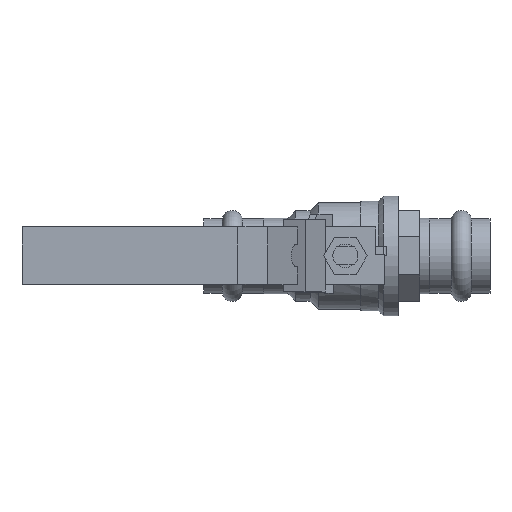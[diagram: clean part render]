
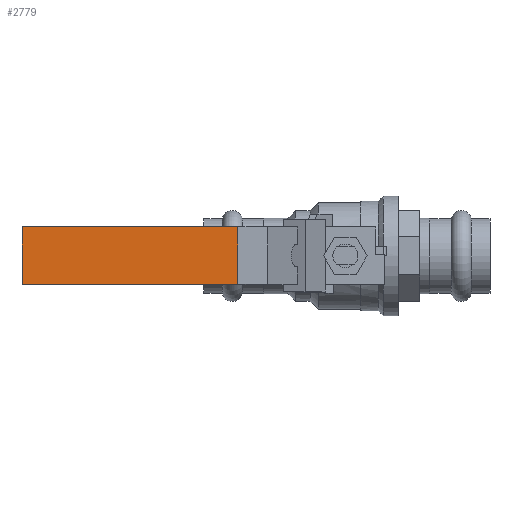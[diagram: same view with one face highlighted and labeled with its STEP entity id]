
A CAD part, top view. The second image highlights one B-rep face of the part: STEP entity #2779.
In plain terms, the highlighted planar face has unit normal (0, 0, 1).
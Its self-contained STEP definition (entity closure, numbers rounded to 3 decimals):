
#2030 = PLANE('',#2031);
#2031 = AXIS2_PLACEMENT_3D('',#2032,#2033,#2034);
#2032 = CARTESIAN_POINT('',(1.33,0.457,2.385
    ));
#2033 = DIRECTION('',(0.,-1.,0.));
#2034 = DIRECTION('',(0.,0.,1.));
#2084 = PLANE('',#2085);
#2085 = AXIS2_PLACEMENT_3D('',#2086,#2087,#2088);
#2086 = CARTESIAN_POINT('',(1.33,-0.328,
    2.385));
#2087 = DIRECTION('',(0.,-1.,0.));
#2088 = DIRECTION('',(0.,0.,1.));
#2432 = PLANE('',#2433);
#2433 = AXIS2_PLACEMENT_3D('',#2434,#2435,#2436);
#2434 = CARTESIAN_POINT('',(0.464,0.457,3.228));
#2435 = DIRECTION('',(1.,0.,0.));
#2436 = DIRECTION('',(0.,0.,1.));
#2452 = VERTEX_POINT('',#2453);
#2453 = CARTESIAN_POINT('',(0.464,0.457,3.336));
#2474 = EDGE_CURVE('',#2452,#2475,#2477,.T.);
#2475 = VERTEX_POINT('',#2476);
#2476 = CARTESIAN_POINT('',(0.464,-0.328,3.336));
#2477 = SURFACE_CURVE('',#2478,(#2482,#2489),.PCURVE_S1.);
#2478 = LINE('',#2479,#2480);
#2479 = CARTESIAN_POINT('',(0.464,0.457,3.336));
#2480 = VECTOR('',#2481,1.);
#2481 = DIRECTION('',(0.,-1.,0.));
#2482 = PCURVE('',#2432,#2483);
#2483 = DEFINITIONAL_REPRESENTATION('',(#2484),#2488);
#2484 = LINE('',#2485,#2486);
#2485 = CARTESIAN_POINT('',(0.108,0.));
#2486 = VECTOR('',#2487,1.);
#2487 = DIRECTION('',(0.,1.));
#2488 = ( GEOMETRIC_REPRESENTATION_CONTEXT(2) 
PARAMETRIC_REPRESENTATION_CONTEXT() REPRESENTATION_CONTEXT('2D SPACE',''
  ) );
#2489 = PCURVE('',#2490,#2495);
#2490 = PLANE('',#2491);
#2491 = AXIS2_PLACEMENT_3D('',#2492,#2493,#2494);
#2492 = CARTESIAN_POINT('',(-1.005,0.457,3.336));
#2493 = DIRECTION('',(0.,0.,1.));
#2494 = DIRECTION('',(-1.,0.,0.));
#2495 = DEFINITIONAL_REPRESENTATION('',(#2496),#2500);
#2496 = LINE('',#2497,#2498);
#2497 = CARTESIAN_POINT('',(-1.468,0.));
#2498 = VECTOR('',#2499,1.);
#2499 = DIRECTION('',(0.,1.));
#2500 = ( GEOMETRIC_REPRESENTATION_CONTEXT(2) 
PARAMETRIC_REPRESENTATION_CONTEXT() REPRESENTATION_CONTEXT('2D SPACE',''
  ) );
#2675 = PLANE('',#2676);
#2676 = AXIS2_PLACEMENT_3D('',#2677,#2678,#2679);
#2677 = CARTESIAN_POINT('',(-2.473,0.457,3.228));
#2678 = DIRECTION('',(-1.,0.,0.));
#2679 = DIRECTION('',(0.,0.,-1.));
#2713 = VERTEX_POINT('',#2714);
#2714 = CARTESIAN_POINT('',(-2.473,-0.328,3.336));
#2735 = EDGE_CURVE('',#2736,#2713,#2738,.T.);
#2736 = VERTEX_POINT('',#2737);
#2737 = CARTESIAN_POINT('',(-2.473,0.457,3.336));
#2738 = SURFACE_CURVE('',#2739,(#2743,#2750),.PCURVE_S1.);
#2739 = LINE('',#2740,#2741);
#2740 = CARTESIAN_POINT('',(-2.473,0.457,3.336));
#2741 = VECTOR('',#2742,1.);
#2742 = DIRECTION('',(0.,-1.,0.));
#2743 = PCURVE('',#2675,#2744);
#2744 = DEFINITIONAL_REPRESENTATION('',(#2745),#2749);
#2745 = LINE('',#2746,#2747);
#2746 = CARTESIAN_POINT('',(-0.108,-0.));
#2747 = VECTOR('',#2748,1.);
#2748 = DIRECTION('',(-0.,1.));
#2749 = ( GEOMETRIC_REPRESENTATION_CONTEXT(2) 
PARAMETRIC_REPRESENTATION_CONTEXT() REPRESENTATION_CONTEXT('2D SPACE',''
  ) );
#2750 = PCURVE('',#2490,#2751);
#2751 = DEFINITIONAL_REPRESENTATION('',(#2752),#2756);
#2752 = LINE('',#2753,#2754);
#2753 = CARTESIAN_POINT('',(1.468,0.));
#2754 = VECTOR('',#2755,1.);
#2755 = DIRECTION('',(0.,1.));
#2756 = ( GEOMETRIC_REPRESENTATION_CONTEXT(2) 
PARAMETRIC_REPRESENTATION_CONTEXT() REPRESENTATION_CONTEXT('2D SPACE',''
  ) );
#2779 = ADVANCED_FACE('',(#2780),#2490,.T.);
#2780 = FACE_BOUND('',#2781,.T.);
#2781 = EDGE_LOOP('',(#2782,#2803,#2804,#2825));
#2782 = ORIENTED_EDGE('',*,*,#2783,.T.);
#2783 = EDGE_CURVE('',#2713,#2475,#2784,.T.);
#2784 = SURFACE_CURVE('',#2785,(#2789,#2796),.PCURVE_S1.);
#2785 = LINE('',#2786,#2787);
#2786 = CARTESIAN_POINT('',(-2.473,-0.328,3.336));
#2787 = VECTOR('',#2788,1.);
#2788 = DIRECTION('',(1.,0.,0.));
#2789 = PCURVE('',#2490,#2790);
#2790 = DEFINITIONAL_REPRESENTATION('',(#2791),#2795);
#2791 = LINE('',#2792,#2793);
#2792 = CARTESIAN_POINT('',(1.468,0.785));
#2793 = VECTOR('',#2794,1.);
#2794 = DIRECTION('',(-1.,0.));
#2795 = ( GEOMETRIC_REPRESENTATION_CONTEXT(2) 
PARAMETRIC_REPRESENTATION_CONTEXT() REPRESENTATION_CONTEXT('2D SPACE',''
  ) );
#2796 = PCURVE('',#2084,#2797);
#2797 = DEFINITIONAL_REPRESENTATION('',(#2798),#2802);
#2798 = LINE('',#2799,#2800);
#2799 = CARTESIAN_POINT('',(0.951,3.802));
#2800 = VECTOR('',#2801,1.);
#2801 = DIRECTION('',(0.,-1.));
#2802 = ( GEOMETRIC_REPRESENTATION_CONTEXT(2) 
PARAMETRIC_REPRESENTATION_CONTEXT() REPRESENTATION_CONTEXT('2D SPACE',''
  ) );
#2803 = ORIENTED_EDGE('',*,*,#2474,.F.);
#2804 = ORIENTED_EDGE('',*,*,#2805,.F.);
#2805 = EDGE_CURVE('',#2736,#2452,#2806,.T.);
#2806 = SURFACE_CURVE('',#2807,(#2811,#2818),.PCURVE_S1.);
#2807 = LINE('',#2808,#2809);
#2808 = CARTESIAN_POINT('',(-2.473,0.457,3.336));
#2809 = VECTOR('',#2810,1.);
#2810 = DIRECTION('',(1.,0.,0.));
#2811 = PCURVE('',#2490,#2812);
#2812 = DEFINITIONAL_REPRESENTATION('',(#2813),#2817);
#2813 = LINE('',#2814,#2815);
#2814 = CARTESIAN_POINT('',(1.468,0.));
#2815 = VECTOR('',#2816,1.);
#2816 = DIRECTION('',(-1.,0.));
#2817 = ( GEOMETRIC_REPRESENTATION_CONTEXT(2) 
PARAMETRIC_REPRESENTATION_CONTEXT() REPRESENTATION_CONTEXT('2D SPACE',''
  ) );
#2818 = PCURVE('',#2030,#2819);
#2819 = DEFINITIONAL_REPRESENTATION('',(#2820),#2824);
#2820 = LINE('',#2821,#2822);
#2821 = CARTESIAN_POINT('',(0.951,3.802));
#2822 = VECTOR('',#2823,1.);
#2823 = DIRECTION('',(0.,-1.));
#2824 = ( GEOMETRIC_REPRESENTATION_CONTEXT(2) 
PARAMETRIC_REPRESENTATION_CONTEXT() REPRESENTATION_CONTEXT('2D SPACE',''
  ) );
#2825 = ORIENTED_EDGE('',*,*,#2735,.T.);
